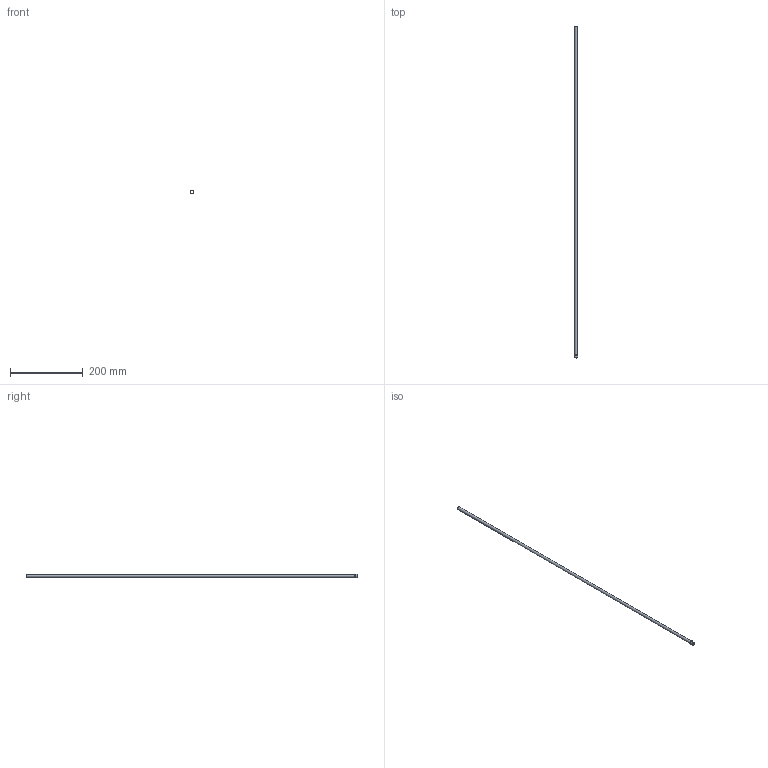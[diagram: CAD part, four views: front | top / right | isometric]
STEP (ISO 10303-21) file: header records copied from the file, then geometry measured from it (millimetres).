
FILE_DESCRIPTION(/* description */ (''),/* implementation_level */ '2;1');
FILE_NAME(/* name */ 'C:/Users/drich/Desktop/HF312T-36 v1.step',/* time_stamp */ '2019-12-30T13:34:25-06:00',/* author */ (''),/* organization */ (''),/* preprocessor_version */ 'ST-DEVELOPER v18',/* originating_system */ 'Autodesk Translation Framework v8.12.0.6',/* authorisation */ '');
FILE_SCHEMA (('AUTOMOTIVE_DESIGN { 1 0 10303 214 3 1 1 }'));
Length unit declared in the file: inch
Products named in the file (1): HF312T-36
Bounding box: 9.58 x 914.4 x 9.58 mm (x, y, z)
Volume: 6858.3 mm3; surface area: 43870.3 mm2
Topology: 1 solids, 1 shells, 12 faces, 30 edges, 22 vertices
Faces by surface type: plane 4, cylinder 4, torus 3, cone 1
Full cylindrical faces by diameter (mm): 7.315 x1, 7.925 x1, 9.406 x1, 9.576 x1
Entity records: 426 total; most frequent: DIRECTION 81, CARTESIAN_POINT 65, ORIENTED_EDGE 60, AXIS2_PLACEMENT_3D 38, EDGE_CURVE 30, CIRCLE 25, VERTEX_POINT 22, EDGE_LOOP 16
